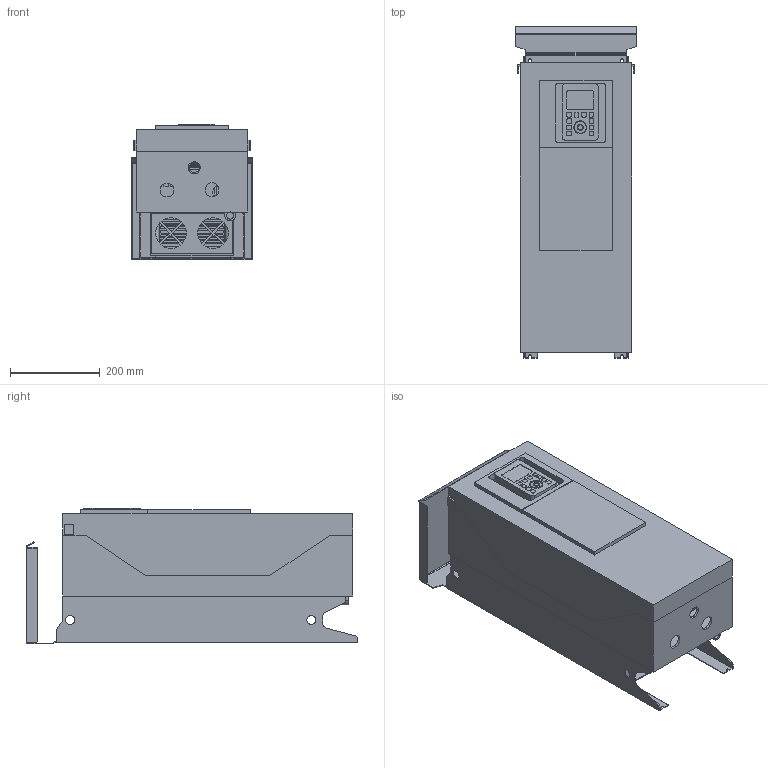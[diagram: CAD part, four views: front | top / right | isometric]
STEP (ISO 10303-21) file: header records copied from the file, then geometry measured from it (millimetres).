
FILE_DESCRIPTION((''),'2;1');
FILE_NAME('VFAS3_SA3E_ASM','2017-06-16T',('SESA57284'),('Schneider-Electric'),'PRO/ENGINEER BY PARAMETRIC TECHNOLOGY CORPORATION, 2015440','PRO/ENGINEER BY PARAMETRIC TECHNOLOGY CORPORATION, 2015440','');
FILE_SCHEMA(('CONFIG_CONTROL_DESIGN'));
Length unit declared in the file: millimetre
Products named in the file (13): PRT0001_1; PRT0002_1; PRT0003_1; PRT0004_1; PRT0005_1; PRT0006_1; PRT0007_1; PRT0008_1; ASM0003_ASM_1_ASM; PRT0009_1; VFAS3_SA3E_ASM_1_ASM; IP55_TOP_CAP_SA1E; VFAS3_SA3E_ASM
Assembly tree (12 placements, depth 4):
  VFAS3_SA3E_ASM
    VFAS3_SA3E_ASM_1_ASM
      PRT0001_1
      PRT0002_1
      PRT0003_1
      ASM0003_ASM_1_ASM
        PRT0004_1
        PRT0005_1
        PRT0006_1
        PRT0007_1
        PRT0008_1
      PRT0009_1
    IP55_TOP_CAP_SA1E
Bounding box: 271 x 741 x 302.93 mm (x, y, z)
Volume: 4047414.2 mm3; surface area: 2565853.1 mm2
Topology: 10 solids, 11 shells, 1200 faces, 3387 edges, 2228 vertices
Faces by surface type: plane 848, cylinder 307, extrusion 43, torus 2
Entity records: 43291 total; most frequent: CARTESIAN_POINT 11635, ORIENTED_EDGE 6702, DIRECTION 6238, EDGE_CURVE 3351, VECTOR 2474, LINE 2431, VERTEX_POINT 2222, AXIS2_PLACEMENT_3D 1882
